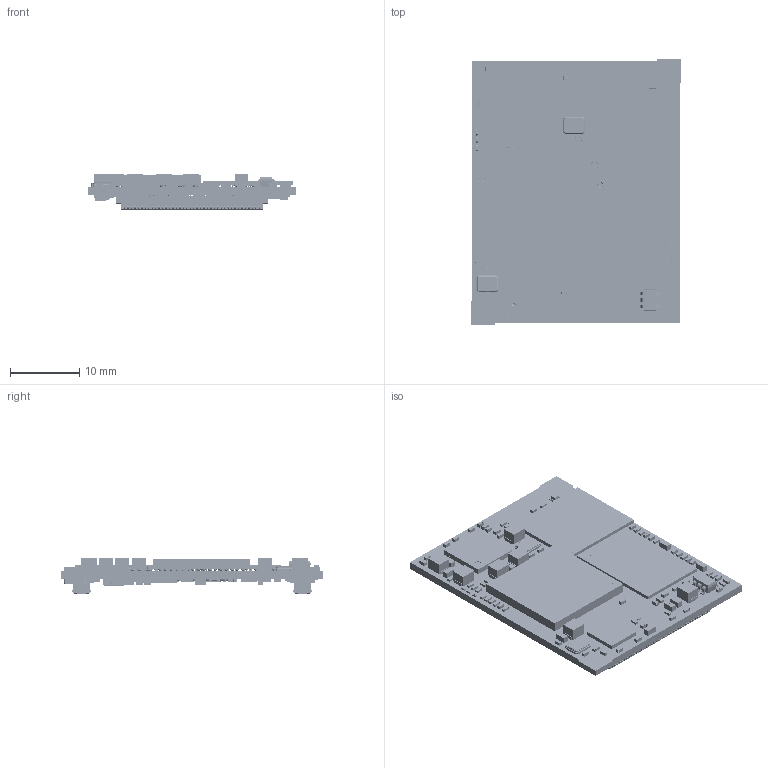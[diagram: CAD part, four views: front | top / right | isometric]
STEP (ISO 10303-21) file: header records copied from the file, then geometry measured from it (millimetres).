
FILE_DESCRIPTION(/* description */ ('PCB Design'),/* implementation_level */ '2;1');
FILE_NAME(/* name */ 'MINI1126B-P_V5_3D',/* time_stamp */ '2026-05-07T19:33:58+08:00',/* author */ (''),/* organization */ (''),/* preprocessor_version */ 'ST-DEVELOPER v16',/* originating_system */ 'allegro_17.2S053',/* authorisation */ '');
FILE_SCHEMA (('AUTOMOTIVE_DESIGN { 1 0 10303 214 3 1 1 }'));
Products named in the file (271): MINI1126B-P_V5; BOARD_OUTLINE; COMPONENTS; DF12N-80DS; HP-C60-S100MIL; BGA153-20-1414-ENIG; LED0603; SOT23; DFN8_1P27_6X5MM_3P1; CRY3015; QFN_40_0P4_5P10; C0805; IND_252012; SOT_23_5; BGA409_14R00X14R00X0R90; BGA200_15R00X10R00X0R90; C0201; QFN68_7R00X7R00X0R80_T; IND_252010; R0402; CRY4_3R20X2R50X0R80; C0603; C0402; DF12NC(3.0)-80DS-0.5V; A3025639-B606-49D8-87C5-9FA25282E8C4; Fillet; Pocket002; User Library-LED_0603_R; Pocket001; Pad004; Pad; CircuitWorks-SOT-23; User Library-DFN8-5X6; Pad005; Pad007; Pad008; Pad003; Pad001; Pad002; Pad006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
Assembly tree (561 placements, depth 7):
  MINI1126B-P_V5
    BOARD_OUTLINE
    COMPONENTS
      DF12N-80DS  x2
        DF12NC(3.0)-80DS-0.5V
      HP-C60-S100MIL  x2
      BGA153-20-1414-ENIG
        A3025639-B606-49D8-87C5-9FA25282E8C4
      LED0603
        User Library-LED_0603_R
          Pocket002
          Pad004
          Fillet
          Pocket001
          Pad
      SOT23
        CircuitWorks-SOT-23
      DFN8_1P27_6X5MM_3P1
        User Library-DFN8-5X6
          Pad001
          Pad002
          Pad
          Pad009
          Pad003
          Pad005
          Pad004
          Pad006
          Pad007
          Pad008
      CRY3015
        0637D9F9-BE46-411F-B9CE-197B637E80A1
      QFN_40_0P4_5P10
        0
        QFN 40 5x5 pitch 0_4_STEP
      C0805
        User Library-C0805-2
      IND_252012  x2
        User Library-INDM2520X190N
      SOT_23_5
        User Library-SOT23-5-3
          Free-Models003
          Fusion
      BGA409_14R00X14R00X0R90
        4A0CA5B7-EB1C-4D5D-925A-C0890F0C80A3
      BGA200_15R00X10R00X0R90
        User Library-IS46LQ32128A-062BLA
          Part_147
          Part_147_2
          Part_147_3
          Part_147_4
          Part_147_5
          Part_147_6
          Part_147_7
          Part_147_8
          Part_147_9
          Part_147_10
          Part_147_11
          Part_147_12
          Part_147_13
          Part_147_14
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Bounding box: 30.56 x 38.56 x 5.16 mm (x, y, z)
Volume: 970.6 mm3; surface area: 7084.2 mm2
Topology: 1471 solids, 1860 shells, 34559 faces, 81073 edges, 49366 vertices
Faces by surface type: bspline 23479, plane 8940, cylinder 1568, sphere 560, torus 12
Entity records: 201882 total; most frequent: CARTESIAN_POINT 74174, ORIENTED_EDGE 22777, DIRECTION 18194, EDGE_CURVE 11397, VERTEX_POINT 8077, VECTOR 6735, LINE 6735, AXIS2_PLACEMENT_3D 6031
